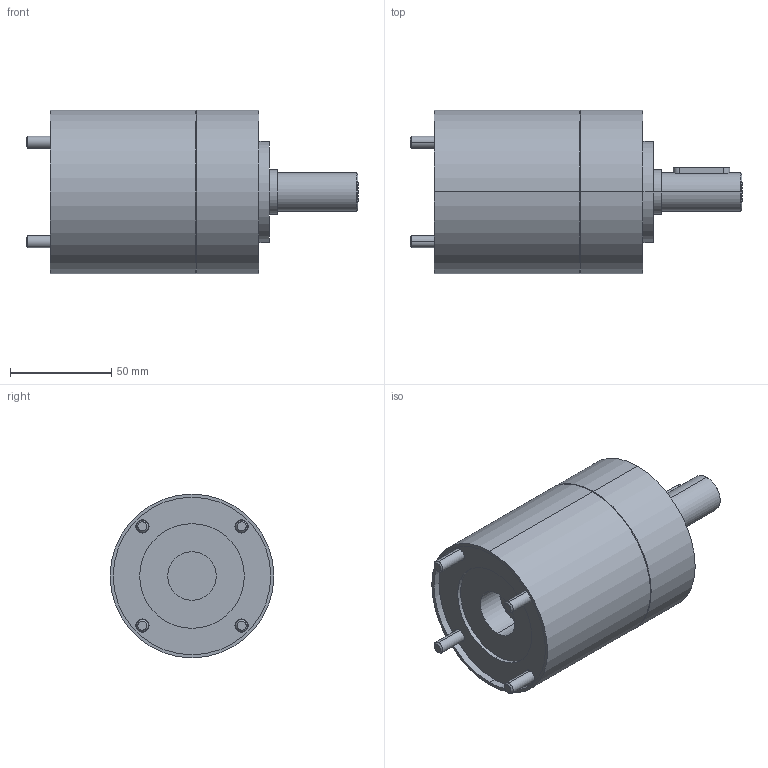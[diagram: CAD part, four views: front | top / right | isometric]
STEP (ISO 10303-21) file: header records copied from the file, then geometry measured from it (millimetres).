
FILE_DESCRIPTION (( 'STEP AP214' ), '1' );
FILE_NAME ('PM80_3stufig.STEP', '2012-09-19T12:44:05', ( ' ' ), ( '' ), 'SwSTEP 2.0', 'SolidWorks 2010', '' );
FILE_SCHEMA (( 'AUTOMOTIVE_DESIGN' ));
Length unit declared in the file: millimetre
Products named in the file (1): PM80_3stufig
Bounding box: 164.3 x 81 x 81 mm (x, y, z)
Volume: 525065.7 mm3; surface area: 61301.9 mm2
Topology: 1 solids, 1 shells, 161 faces, 348 edges, 211 vertices
Faces by surface type: cylinder 62, plane 55, cone 36, torus 8
Entity records: 5511 total; most frequent: DIRECTION 820, CARTESIAN_POINT 773, ORIENTED_EDGE 676, EDGE_CURVE 338, AXIS2_PLACEMENT_3D 322, VERTEX_POINT 211, EDGE_LOOP 193, LINE 176
